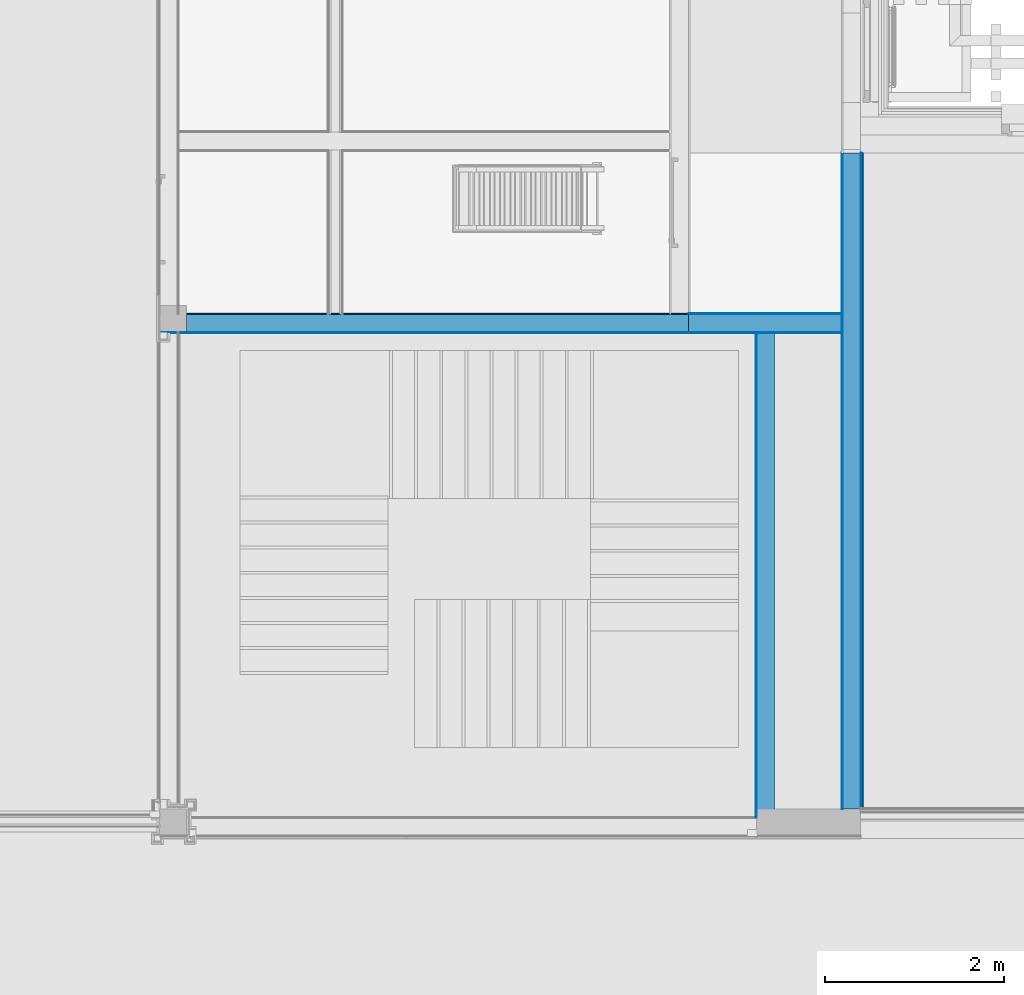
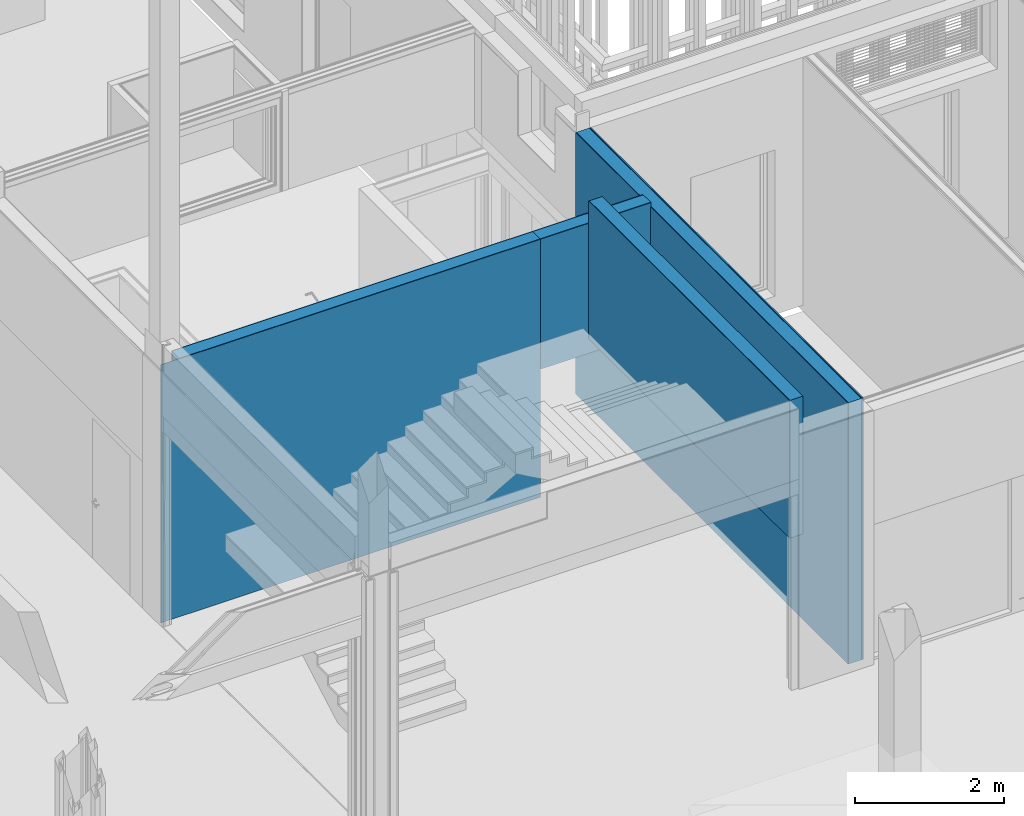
# One storey, part 176 of 260: 12 building element parts, 1 opening, 4 elements without a shape of their own.
"""IFC2X3 building model written with IfcOpenShell, lengths in millimetres."""

from ifc_helpers import new_model, entity, si_unit, converted_unit, derived_unit, money_unit, direction, frame, origin_with_axes, place, context, subcontext, project, spatial, faceted_brep, material, type_object, element, aggregate, save


model = new_model("IFC2X3")

# Units and contexts
model_context = context("Model", 3, precision=0.01, world=origin_with_axes(), true_north=direction((0.0, 1.0)))
body_context = subcontext(model_context, "Body", "Model", "MODEL_VIEW")
ifc_project = project(units=[si_unit("LENGTHUNIT", "METRE", prefix="MILLI"), si_unit("AREAUNIT", "SQUARE_METRE"), si_unit("VOLUMEUNIT", "CUBIC_METRE"), converted_unit("PLANEANGLEUNIT", "DEGREE", entity("IfcPlaneAngleMeasure", 0.0174532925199), si_unit("PLANEANGLEUNIT", "RADIAN"), dimensions=[0, 0, 0, 0, 0, 0, 0]), money_unit("EUR"), converted_unit("TIMEUNIT", "Year", entity("IfcTimeMeasure", 31556926.0), si_unit("TIMEUNIT", "SECOND"), dimensions=[0, 0, 1, 0, 0, 0, 0]), si_unit("MASSUNIT", "GRAM", prefix="KILO"), si_unit("THERMODYNAMICTEMPERATUREUNIT", "DEGREE_CELSIUS"), si_unit("LUMINOUSINTENSITYUNIT", "LUMEN"), si_unit("ENERGYUNIT", "JOULE", prefix="MEGA"), derived_unit("THERMALCONDUCTANCEUNIT", [(si_unit("POWERUNIT", "WATT"), 1), (si_unit("LENGTHUNIT", "METRE"), -1), (si_unit("THERMODYNAMICTEMPERATUREUNIT", "KELVIN"), -1)]), derived_unit("SPECIFICHEATCAPACITYUNIT", [(si_unit("ENERGYUNIT", "JOULE"), 1), (si_unit("MASSUNIT", "GRAM", prefix="KILO"), -1), (si_unit("THERMODYNAMICTEMPERATUREUNIT", "KELVIN"), -1)]), derived_unit("MASSDENSITYUNIT", [(si_unit("MASSUNIT", "GRAM", prefix="KILO"), 1), (si_unit("VOLUMEUNIT", "CUBIC_METRE"), -1)])], contexts=[model_context])

# Site, building, storey
site_placement = place(None, origin_with_axes())
site = spatial("IfcSite", under=ifc_project, at=site_placement, Name="Kolde pst 67a", CompositionType="ELEMENT")
building_placement = place(site_placement, origin_with_axes())
building = spatial("IfcBuilding", under=site, at=building_placement, Name="Riigigümnaasium", CompositionType="ELEMENT")
storey_placement = place(building_placement, origin_with_axes())
storey = spatial("IfcBuildingStorey", under=building, at=storey_placement, Name="1. korrus", CompositionType="ELEMENT", Elevation=0.0)

# Wall, building element parts
wall_type_1 = type_object("IfcWallType", Name="SS-RB-20/3_+krohv+dold 240", PredefinedType="NOTDEFINED")
wall_1_placement = place(storey_placement, frame((60239.9941136, 36239.9996998, -120.0), z_axis=(0.0, 0.0, 1.0), x_axis=(0.0, -1.0, 0.0)))
wall_1 = element("IfcWall", 1, at=wall_1_placement, inside=storey, type_object=wall_type_1, Name="Sisesein")
ifc_material_1 = material(Name="_VIIMISTLUSKIHT - viimistlus vastavalt SA osale")
building_element_part_1_placement = place(wall_1_placement, origin_with_axes())
building_element_part_1 = element("IfcBuildingElementPart", 2, at=building_element_part_1_placement, material=ifc_material_1, Name="_VIIMISTLUSKIHT - viimistlus vastavalt SA osale", context=body_context, shape_type="Brep", body=[
    faceted_brep([(7320.00004376, 230.0, 0.0), (7320.00004376, 210.0, 0.0), (0.0, 210.0, 0.0), (0.0, 230.0, 0.0), (7320.00004376, 230.0, 4290.0), (7320.00004376, 210.0, 4290.0), (0.0, 210.0, 4290.0), (0.0, 230.0, 4290.0)], [[[0, 1, 2, 3]], [[0, 4, 5, 1]], [[1, 5, 6, 2]], [[3, 2, 6, 7]], [[4, 0, 3, 7]], [[5, 4, 7, 6]]]),
])
ifc_material_2 = material(Name="_KARKASS - eriprofiilkinnitus vastavalt sisemisele plaatviimistlusele")
building_element_part_2_placement = place(wall_1_placement, origin_with_axes())
building_element_part_2 = element("IfcBuildingElementPart", 3, at=building_element_part_2_placement, material=ifc_material_2, Name="_KARKASS - eriprofiilkinnitus vastavalt sisemisele plaatviimistlusele", context=body_context, shape_type="Brep", body=[
    faceted_brep([(7320.00004376, 210.0, 0.0), (7320.00004376, 200.0, 0.0), (0.0, 200.0, 0.0), (0.0, 210.0, 0.0), (7320.00004376, 210.0, 4290.0), (7320.00004376, 200.0, 4290.0), (0.0, 200.0, 4290.0), (0.0, 210.0, 4290.0)], [[[0, 1, 2, 3]], [[0, 4, 5, 1]], [[1, 5, 6, 2]], [[3, 2, 6, 7]], [[4, 0, 3, 7]], [[5, 4, 7, 6]]]),
])
ifc_material_3 = material(Name="_KANDETARIND - monteeritav raudbetoon vastavalt EK osale")
building_element_part_3_placement = place(wall_1_placement, origin_with_axes())
building_element_part_3 = element("IfcBuildingElementPart", 4, at=building_element_part_3_placement, material=ifc_material_3, Name="_KANDETARIND - monteeritav raudbetoon vastavalt EK osale", context=body_context, shape_type="Brep", body=[
    faceted_brep([(7320.00004376, 200.0, 0.0), (7320.00004376, 0.0, 0.0), (0.0, 0.0, 0.0), (0.0, 200.0, 0.0), (7320.00004376, 200.0, 4290.0), (7320.00004376, 0.0, 4290.0), (0.0, 0.0, 4290.0), (0.0, 200.0, 4290.0)], [[[0, 1, 2, 3]], [[0, 4, 5, 1]], [[1, 5, 6, 2]], [[3, 2, 6, 7]], [[4, 0, 3, 7]], [[5, 4, 7, 6]]]),
])
building_element_part_4_placement = place(wall_1_placement, origin_with_axes())
building_element_part_4 = element("IfcBuildingElementPart", 5, at=building_element_part_4_placement, material=ifc_material_1, Name="_VIIMISTLUSKIHT - viimistlus vastavalt SA osale", context=body_context, shape_type="Brep", body=[
    faceted_brep([(7320.00004376, 0.0, 0.0), (7320.00004376, -10.0, 0.0), (0.0, -10.0, 0.0), (0.0, 0.0, 0.0), (7320.00004376, 0.0, 4290.0), (7320.00004376, -10.0, 4290.0), (0.0, -10.0, 4290.0), (0.0, 0.0, 4290.0)], [[[0, 1, 2, 3]], [[0, 4, 5, 1]], [[1, 5, 6, 2]], [[3, 2, 6, 7]], [[4, 0, 3, 7]], [[5, 4, 7, 6]]]),
])
aggregate(wall_1, [building_element_part_1, building_element_part_2, building_element_part_3, building_element_part_4])

wall_type_2 = type_object("IfcWallType", Name="SS-RB-20/1_+2 krohv 55 dB 220", PredefinedType="NOTDEFINED")
wall_2_placement = place(storey_placement, frame((52629.9941222, 34439.9999729, 0.0), z_axis=(0.0, 0.0, 1.0), x_axis=(1.0, 0.0, 0.0)))
wall_2 = element("IfcWall", 6, at=wall_2_placement, inside=storey, type_object=wall_type_2, Name="Sisesein")
building_element_part_5_placement = place(wall_2_placement, origin_with_axes())
building_element_part_5 = element("IfcBuildingElementPart", 7, at=building_element_part_5_placement, material=ifc_material_1, Name="_VIIMISTLUSKIHT - viimistlus vastavalt SA osale", context=body_context, shape_type="Brep", body=[
    faceted_brep([(290.0, 10.0, 0.0), (290.0, 10.0, 2400.0), (1863.7246952, 10.0, 2400.0), (1863.7246952, 10.0, 0.0), (290.0, -2.83461645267e-05, 2400.0), (290.0, 0.0, 0.0), (1863.7246952, -2.83461645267e-05, 2400.0), (1863.7246952, 0.0, 0.0)], [[[0, 1, 2, 3]], [[4, 1, 0, 5]], [[1, 4, 6, 2]], [[3, 2, 6, 7]], [[5, 0, 3, 7]], [[4, 5, 7, 6]]]),
    faceted_brep([(290.0, 10.0, 2600.0), (290.0, 10.0, 4235.0), (5889.95475453, 10.0, 4235.0), (5889.95475453, 10.0, 2600.0), (290.0, 0.0, 4235.0), (290.0, -2.83461645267e-05, 2600.0), (5889.95475453, 0.0, 4235.0), (5889.95475453, -2.83461645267e-05, 2600.0)], [[[0, 1, 2, 3]], [[4, 1, 0, 5]], [[1, 4, 6, 2]], [[6, 7, 3, 2]], [[5, 0, 3, 7]], [[4, 5, 7, 6]]]),
    faceted_brep([(2033.7246952, 10.0, 2400.0), (5679.95475453, 10.0, 2400.0), (5679.95475453, 10.0, 0.0), (2033.7246952, 10.0, 0.0), (5679.95475453, -2.83461645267e-05, 2400.0), (2033.7246952, -2.83461645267e-05, 2400.0), (5679.95475453, 0.0, 0.0), (2033.7246952, 0.0, 0.0)], [[[0, 1, 2, 3]], [[4, 1, 0, 5]], [[1, 4, 6, 2]], [[6, 7, 3, 2]], [[5, 0, 3, 7]], [[4, 5, 7, 6]]]),
])
building_element_part_6_placement = place(wall_2_placement, origin_with_axes())
building_element_part_6 = element("IfcBuildingElementPart", 8, at=building_element_part_6_placement, material=ifc_material_3, Name="_KANDETARIND - monteeritav raudbetoon vastavalt EK osale", context=body_context, shape_type="Brep", body=[
    faceted_brep([(290.0, 0.0, 0.0), (290.0, 0.0, 4235.0), (5889.95475453, 0.0, 4235.0), (5889.95475453, 0.0, 0.0), (290.0, -200.0, 4235.0), (290.0, -200.0, 0.0), (5889.95475453, -200.0, 4235.0), (5889.95475453, -200.0, 0.0)], [[[0, 1, 2, 3]], [[4, 1, 0, 5]], [[1, 4, 6, 2]], [[6, 7, 3, 2]], [[5, 0, 3, 7]], [[4, 5, 7, 6]]]),
])
building_element_part_7_placement = place(wall_2_placement, origin_with_axes())
building_element_part_7 = element("IfcBuildingElementPart", 9, at=building_element_part_7_placement, material=ifc_material_1, Name="_VIIMISTLUSKIHT - viimistlus vastavalt SA osale", context=body_context, shape_type="Brep", body=[
    faceted_brep([(0.0, -210.0, 4235.0), (5889.95475453, -210.0, 4235.0), (5889.95475453, -200.0, 4235.0), (0.0, -200.0, 4235.0), (0.0, -210.0, 0.0), (5889.95475453, -210.0, 0.0), (5889.95475453, -200.0, 0.0), (0.0, -200.0, 0.0)], [[[0, 1, 2, 3]], [[4, 5, 1, 0]], [[2, 1, 5, 6]], [[3, 2, 6, 7]], [[4, 0, 3, 7]], [[7, 6, 5, 4]]]),
])
aggregate(wall_2, [building_element_part_5, building_element_part_6, building_element_part_7])

# Wall, opening, building element parts
wall_3_placement = place(storey_placement, frame((58519.9488767, 34439.9999729, 0.0), z_axis=(0.0, 0.0, 1.0), x_axis=(1.0, -1.64798947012e-08, 0.0)))
wall_3 = element("IfcWall", 10, at=wall_3_placement, inside=storey, type_object=wall_type_2, Name="Sisesein")
opening_placement = place(wall_3_placement, frame((861.045245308, 0.0, 0.0), z_axis=(0.0, 0.0, 1.0), x_axis=(1.0, 0.0, 0.0)))
element("IfcOpeningElement", 11, at=opening_placement, cuts=wall_3, Name="Kahepoolne siseuks", context=body_context, shape_type="Brep", body=[
    faceted_brep([(-858.99999621, -440.000014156, 0.0), (-858.99999621, -440.000014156, 2100.0), (-859.000007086, 219.999985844, 2100.0), (-859.000007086, 219.999985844, 0.0), (859.00000379, -439.999985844, 0.0), (859.00000379, -439.999985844, 2100.0), (858.999992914, 220.000014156, 2100.0), (858.999992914, 220.000014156, 0.0)], [[[0, 1, 2, 3]], [[0, 4, 5, 1]], [[1, 5, 6, 2]], [[3, 2, 6, 7]], [[4, 0, 3, 7]], [[5, 4, 7, 6]]]),
])
building_element_part_8_placement = place(wall_3_placement, origin_with_axes())
building_element_part_8 = element("IfcBuildingElementPart", 12, at=building_element_part_8_placement, material=ifc_material_1, Name="_VIIMISTLUSKIHT - viimistlus vastavalt SA osale", context=body_context, shape_type="Brep", body=[
    faceted_brep([(1720.04524185, 2.83461645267e-05, 2100.0), (1720.04524168, 10.0000283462, 2100.0), (1720.04524531, 10.0000283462, 4235.0), (1720.04524547, 2.83461645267e-05, 4235.0), (2.04524168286, 10.0000000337, 2100.0), (2.04524184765, 3.37081473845e-08, 2100.0), (2.04524168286, 10.0000000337, 0.0), (-1.64796176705e-07, 10.0, 0.0), (-1.64796176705e-07, 10.0, 4235.0), (0.0, 0.0, 4235.0), (0.0, 0.0, 0.0), (2.04524184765, 3.37081473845e-08, 0.0)], [[[0, 1, 2, 3]], [[4, 1, 0, 5]], [[4, 6, 7, 8, 2, 1]], [[2, 8, 9, 3]], [[5, 0, 3, 9, 10, 11]], [[6, 4, 5, 11]], [[6, 11, 10, 7]], [[8, 7, 10, 9]]]),
])
building_element_part_9_placement = place(wall_3_placement, origin_with_axes())
building_element_part_9 = element("IfcBuildingElementPart", 13, at=building_element_part_9_placement, material=ifc_material_3, Name="_KANDETARIND - monteeritav raudbetoon vastavalt EK osale", context=body_context, shape_type="Brep", body=[
    faceted_brep([(1720.04524514, -199.999971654, 2100.0), (1720.04524185, 2.83461645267e-05, 2100.0), (1720.04524547, 2.83461645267e-05, 4235.0), (1720.04524877, -199.999971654, 4235.0), (2.04524184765, 3.37081473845e-08, 2100.0), (2.04524514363, -199.999999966, 2100.0), (2.04524184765, 3.37081473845e-08, 0.0), (0.0, 0.0, 0.0), (0.0, 0.0, 4235.0), (3.29598037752e-06, -200.0, 4235.0), (3.29598037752e-06, -200.0, 0.0), (2.04524514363, -199.999999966, 0.0)], [[[0, 1, 2, 3]], [[4, 1, 0, 5]], [[4, 6, 7, 8, 2, 1]], [[2, 8, 9, 3]], [[5, 0, 3, 9, 10, 11]], [[6, 4, 5, 11]], [[6, 11, 10, 7]], [[8, 7, 10, 9]]]),
])
building_element_part_10_placement = place(wall_3_placement, origin_with_axes())
building_element_part_10 = element("IfcBuildingElementPart", 14, at=building_element_part_10_placement, material=ifc_material_1, Name="_VIIMISTLUSKIHT - viimistlus vastavalt SA osale", context=body_context, shape_type="Brep", body=[
    faceted_brep([(1720.04524531, -209.999971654, 2100.0), (1720.04524514, -199.999971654, 2100.0), (1720.04524877, -199.999971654, 4235.0), (1720.04524893, -209.999971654, 4235.0), (2.04524514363, -199.999999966, 2100.0), (2.04524530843, -209.999999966, 2100.0), (2.04524514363, -199.999999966, 0.0), (3.29598037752e-06, -200.0, 0.0), (3.29598037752e-06, -200.0, 4235.0), (3.46077655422e-06, -210.0, 4235.0), (3.46077655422e-06, -210.0, 0.0), (2.04524530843, -209.999999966, 0.0)], [[[0, 1, 2, 3]], [[4, 1, 0, 5]], [[4, 6, 7, 8, 2, 1]], [[2, 8, 9, 3]], [[5, 0, 3, 9, 10, 11]], [[6, 4, 5, 11]], [[6, 11, 10, 7]], [[8, 7, 10, 9]]]),
])
aggregate(wall_3, [building_element_part_8, building_element_part_9, building_element_part_10])

# Wall, building element parts
wall_type_3 = type_object("IfcWallType", Name="SS-RB-20/6_+1 krohv 210", PredefinedType="NOTDEFINED")
wall_4_placement = place(storey_placement, frame((59280.019835, 34229.9999729, 2337.93103448), z_axis=(0.0, 0.0, 1.0), x_axis=(0.0, -1.0, 0.0)))
wall_4 = element("IfcWall", 15, at=wall_4_placement, inside=storey, type_object=wall_type_3, Name="Sisesein")
building_element_part_11_placement = place(wall_4_placement, origin_with_axes())
building_element_part_11 = element("IfcBuildingElementPart", 16, at=building_element_part_11_placement, material=ifc_material_3, Name="_KANDETARIND - monteeritav raudbetoon vastavalt EK osale", context=body_context, shape_type="Brep", body=[
    faceted_brep([(0.0, 200.0, 0.0), (5400.00027281, 200.0, 0.0), (5400.00027281, 0.0, 0.0), (0.0, 0.0, 0.0), (0.0, 200.0, 2262.06896552), (5400.00027281, 200.0, 2262.06896552), (5400.00027281, 0.0, 2262.06896552), (0.0, 0.0, 2262.06896552)], [[[0, 1, 2, 3]], [[4, 5, 1, 0]], [[2, 1, 5, 6]], [[3, 2, 6, 7]], [[4, 0, 3, 7]], [[7, 6, 5, 4]]]),
])
building_element_part_12_placement = place(wall_4_placement, origin_with_axes())
building_element_part_12 = element("IfcBuildingElementPart", 17, at=building_element_part_12_placement, material=ifc_material_1, Name="_VIIMISTLUSKIHT - viimistlus vastavalt SA osale", context=body_context, shape_type="Brep", body=[
    faceted_brep([(0.0, 0.0, 0.0), (5400.00027281, 0.0, 0.0), (5400.00027281, -10.0, 0.0), (0.0, -10.0, 0.0), (0.0, 0.0, 2262.06896552), (5400.00027281, 0.0, 2262.06896552), (5400.00027281, -10.0, 2262.06896552), (0.0, -10.0, 2262.06896552)], [[[0, 1, 2, 3]], [[4, 5, 1, 0]], [[2, 1, 5, 6]], [[3, 2, 6, 7]], [[4, 0, 3, 7]], [[7, 6, 5, 4]]]),
])
aggregate(wall_4, [building_element_part_11, building_element_part_12])

save(model, "model.ifc")
